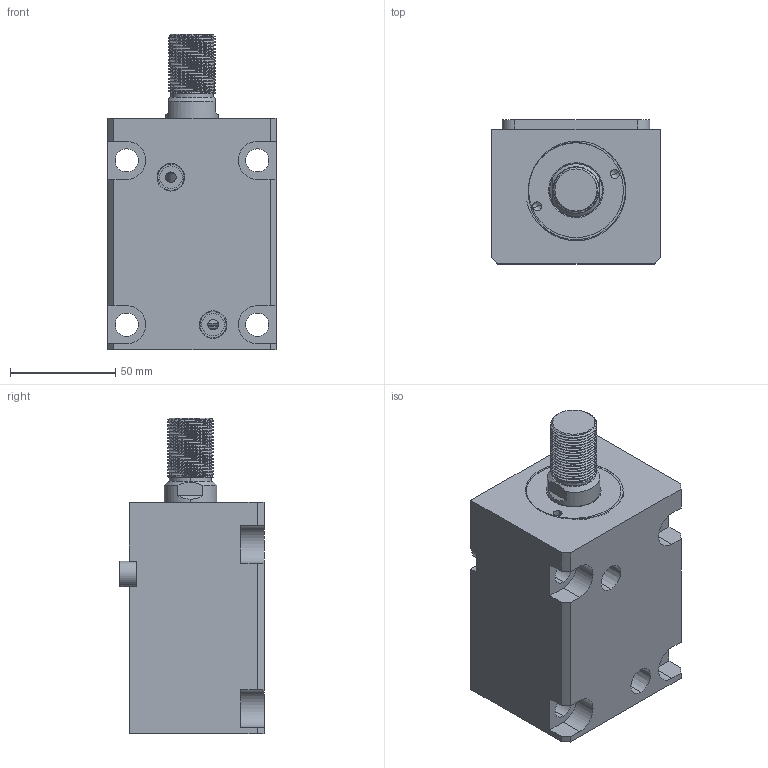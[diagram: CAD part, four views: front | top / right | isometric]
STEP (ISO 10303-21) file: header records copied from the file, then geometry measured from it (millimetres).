
FILE_DESCRIPTION (( 'STEP AP214' ), '1' );
FILE_NAME ('chtb-la40x55w_asm.STEP', '2018-06-04T00:55:52', ( 'Windows' ), ( 'Microsoft' ), 'SwSTEP 2.0', 'SolidWorks 2015', '' );
FILE_SCHEMA (( 'AUTOMOTIVE_DESIGN' ));
Length unit declared in the file: millimetre
Products named in the file (5): CHTB-LA40PJ; CHTB-SD40X55WHSG; CHTB-LA40X55NBT; chtb-la40x55w_asm; CHTB-SD40QG
Assembly tree (4 placements, depth 2):
  chtb-la40x55w_asm
    CHTB-LA40X55NBT
    CHTB-SD40X55WHSG
    CHTB-LA40PJ
    CHTB-SD40QG
Bounding box: 80 x 68.5 x 150 mm (x, y, z)
Volume: 499041.5 mm3; surface area: 94174.1 mm2
Topology: 4 solids, 5 shells, 205 faces, 559 edges, 373 vertices
Faces by surface type: cylinder 111, plane 52, bspline 16, cone 14, torus 12
Entity records: 13775 total; most frequent: CARTESIAN_POINT 8706, ORIENTED_EDGE 1106, DIRECTION 926, EDGE_CURVE 553, VERTEX_POINT 373, AXIS2_PLACEMENT_3D 363, EDGE_LOOP 234, FACE_OUTER_BOUND 205
